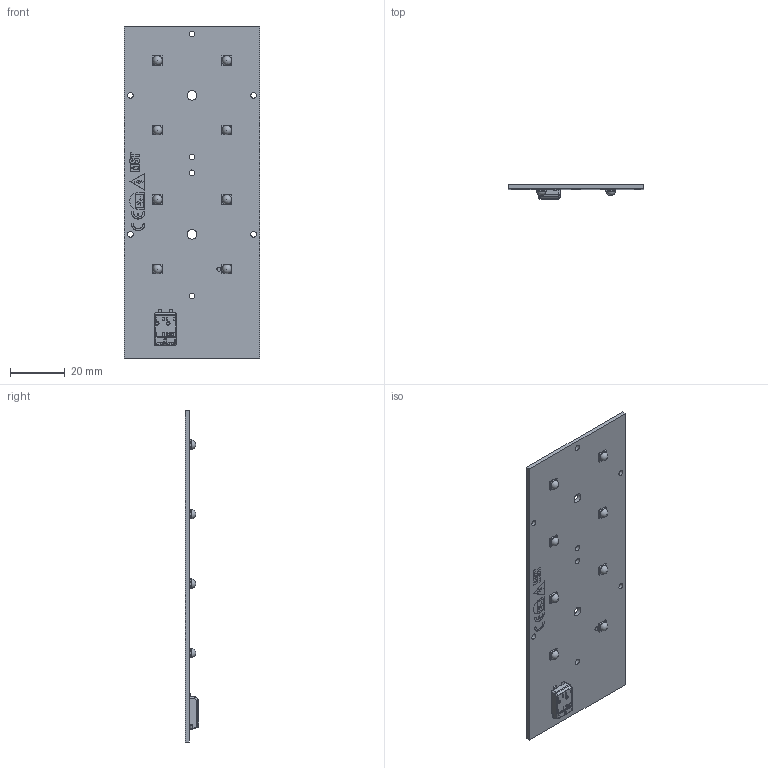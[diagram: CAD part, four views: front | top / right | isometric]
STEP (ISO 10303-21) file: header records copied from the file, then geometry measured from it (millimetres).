
FILE_DESCRIPTION(/* description */ ('Unknown'),/* implementation_level */ '2;1');
FILE_NAME(/* name */ 'RecLED 122x50mm 1900lm 2x4 3535 sh-000 2021-06-25',/* time_stamp */ '2021-06-25T12:12:56+02:00',/* author */ ('Unknown'),/* organization */ ('Unknown'),/* preprocessor_version */ 'ST-DEVELOPER v16.7',/* originating_system */ 'Solid Edge',/* authorisation */ 'Unknown');
FILE_SCHEMA (('AUTOMOTIVE_DESIGN {1 0 10303 214 3 1 1}'));
Length unit declared in the file: millimetre
Products named in the file (1): RecLED 122x50mm 1900lm 2x4 3535 sh-000 2021-06-25
Bounding box: 49.5 x 5 x 121.4 mm (x, y, z)
Volume: 9333.2 mm3; surface area: 13148.7 mm2
Topology: 2 solids, 2 shells, 775 faces, 2071 edges, 1325 vertices
Faces by surface type: plane 463, cylinder 156, bspline 93, cone 26, torus 19, sphere 18
Full cylindrical faces by diameter (mm): 1.5 x1, 2.1 x8, 3.5 x2
Entity records: 32096 total; most frequent: CARTESIAN_POINT 8381, ORIENTED_EDGE 4002, DIRECTION 3332, EDGE_CURVE 2001, VERTEX_POINT 1296, LINE 1292, VECTOR 1292, AXIS2_PLACEMENT_3D 1020
